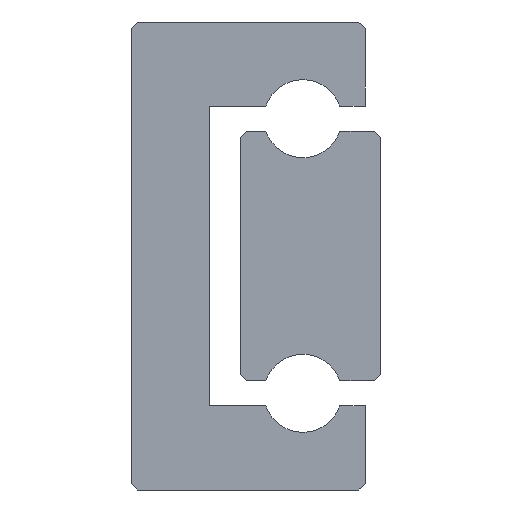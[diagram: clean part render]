
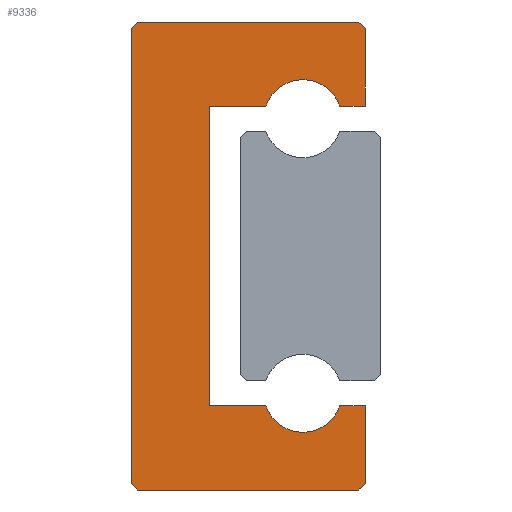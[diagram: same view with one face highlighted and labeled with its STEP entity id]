
A CAD part, left-side view. The second image highlights one B-rep face of the part: STEP entity #9336.
In plain terms, the highlighted planar face has unit normal (-1, 0, 0).
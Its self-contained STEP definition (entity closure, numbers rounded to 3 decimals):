
#73=PLANE('',#10176);
#279=LINE('',#14250,#1085);
#417=LINE('',#15023,#1223);
#420=LINE('',#15029,#1226);
#423=LINE('',#15035,#1229);
#427=LINE('',#15047,#1233);
#430=LINE('',#15069,#1236);
#433=LINE('',#15075,#1239);
#437=LINE('',#15087,#1243);
#440=LINE('',#15093,#1246);
#443=LINE('',#15099,#1249);
#446=LINE('',#15105,#1252);
#449=LINE('',#15111,#1255);
#452=LINE('',#15133,#1258);
#455=LINE('',#15139,#1261);
#1085=VECTOR('',#11133,1000.);
#1223=VECTOR('',#11769,1000.);
#1226=VECTOR('',#11774,1000.);
#1229=VECTOR('',#11779,1000.);
#1233=VECTOR('',#11791,1000.);
#1236=VECTOR('',#11812,1000.);
#1239=VECTOR('',#11817,1000.);
#1243=VECTOR('',#11829,1000.);
#1246=VECTOR('',#11834,1000.);
#1249=VECTOR('',#11839,1000.);
#1252=VECTOR('',#11844,1000.);
#1255=VECTOR('',#11849,1000.);
#1258=VECTOR('',#11870,1000.);
#1261=VECTOR('',#11875,1000.);
#2441=ORIENTED_EDGE('',*,*,#4787,.F.);
#2442=ORIENTED_EDGE('',*,*,#5231,.F.);
#2443=ORIENTED_EDGE('',*,*,#5228,.F.);
#2444=ORIENTED_EDGE('',*,*,#5217,.F.);
#2445=ORIENTED_EDGE('',*,*,#5214,.F.);
#2446=ORIENTED_EDGE('',*,*,#5211,.F.);
#2447=ORIENTED_EDGE('',*,*,#5208,.F.);
#2448=ORIENTED_EDGE('',*,*,#5205,.F.);
#2449=ORIENTED_EDGE('',*,*,#5202,.T.);
#2450=ORIENTED_EDGE('',*,*,#5199,.F.);
#2451=ORIENTED_EDGE('',*,*,#5196,.F.);
#2452=ORIENTED_EDGE('',*,*,#5185,.F.);
#2453=ORIENTED_EDGE('',*,*,#5182,.T.);
#2454=ORIENTED_EDGE('',*,*,#5179,.F.);
#2455=ORIENTED_EDGE('',*,*,#5176,.F.);
#2456=ORIENTED_EDGE('',*,*,#5173,.F.);
#4787=EDGE_CURVE('',#6213,#6214,#279,.T.);
#5173=EDGE_CURVE('',#6214,#6599,#417,.T.);
#5176=EDGE_CURVE('',#6599,#6601,#420,.T.);
#5179=EDGE_CURVE('',#6601,#6603,#423,.T.);
#5182=EDGE_CURVE('',#6605,#6603,#7413,.T.);
#5185=EDGE_CURVE('',#6605,#6607,#427,.T.);
#5196=EDGE_CURVE('',#6607,#6617,#430,.T.);
#5199=EDGE_CURVE('',#6617,#6619,#433,.T.);
#5202=EDGE_CURVE('',#6621,#6619,#7423,.T.);
#5205=EDGE_CURVE('',#6621,#6623,#437,.T.);
#5208=EDGE_CURVE('',#6623,#6625,#440,.T.);
#5211=EDGE_CURVE('',#6625,#6627,#443,.T.);
#5214=EDGE_CURVE('',#6627,#6629,#446,.T.);
#5217=EDGE_CURVE('',#6629,#6631,#449,.T.);
#5228=EDGE_CURVE('',#6631,#6641,#452,.T.);
#5231=EDGE_CURVE('',#6641,#6213,#455,.T.);
#6213=VERTEX_POINT('',#14251);
#6214=VERTEX_POINT('',#14252);
#6599=VERTEX_POINT('',#15024);
#6601=VERTEX_POINT('',#15030);
#6603=VERTEX_POINT('',#15036);
#6605=VERTEX_POINT('',#15042);
#6607=VERTEX_POINT('',#15048);
#6617=VERTEX_POINT('',#15070);
#6619=VERTEX_POINT('',#15076);
#6621=VERTEX_POINT('',#15082);
#6623=VERTEX_POINT('',#15088);
#6625=VERTEX_POINT('',#15094);
#6627=VERTEX_POINT('',#15100);
#6629=VERTEX_POINT('',#15106);
#6631=VERTEX_POINT('',#15112);
#6641=VERTEX_POINT('',#15134);
#7413=CIRCLE('',#10144,1.25);
#7423=CIRCLE('',#10158,1.25);
#7877=EDGE_LOOP('',(#2441,#2442,#2443,#2444,#2445,#2446,#2447,#2448,#2449,
#2450,#2451,#2452,#2453,#2454,#2455,#2456));
#8481=FACE_BOUND('',#7877,.T.);
#9336=ADVANCED_FACE('',(#8481),#73,.F.);
#10144=AXIS2_PLACEMENT_3D('',#15041,#11784,#11785);
#10158=AXIS2_PLACEMENT_3D('',#15081,#11822,#11823);
#10176=AXIS2_PLACEMENT_3D('',#15142,#11879,#11880);
#11133=DIRECTION('',(0.,-1.,0.));
#11769=DIRECTION('',(0.,-0.707,-0.707));
#11774=DIRECTION('',(0.,0.,-1.));
#11779=DIRECTION('',(0.,1.,0.));
#11784=DIRECTION('',(1.,0.,0.));
#11785=DIRECTION('',(0.,0.,-1.));
#11791=DIRECTION('',(0.,1.,0.));
#11812=DIRECTION('',(0.,0.,-1.));
#11817=DIRECTION('',(0.,-1.,0.));
#11822=DIRECTION('',(1.,0.,0.));
#11823=DIRECTION('',(0.,0.,-1.));
#11829=DIRECTION('',(0.,-1.,0.));
#11834=DIRECTION('',(0.,0.,-1.));
#11839=DIRECTION('',(0.,0.707,-0.707));
#11844=DIRECTION('',(0.,1.,0.));
#11849=DIRECTION('',(0.,0.707,0.707));
#11870=DIRECTION('',(0.,0.,1.));
#11875=DIRECTION('',(0.,-0.707,0.707));
#11879=DIRECTION('',(1.,0.,0.));
#11880=DIRECTION('',(0.,0.,-1.));
#14250=CARTESIAN_POINT('',(-35.,7.3,7.5));
#14251=CARTESIAN_POINT('',(-35.,7.3,7.5));
#14252=CARTESIAN_POINT('',(-35.,0.2,7.5));
#15023=CARTESIAN_POINT('',(-35.,0.2,7.5));
#15024=CARTESIAN_POINT('',(-35.,0.,7.3));
#15029=CARTESIAN_POINT('',(-35.,0.,7.3));
#15030=CARTESIAN_POINT('',(-35.,0.,4.8));
#15035=CARTESIAN_POINT('',(-35.,0.,4.8));
#15036=CARTESIAN_POINT('',(-35.,0.816,4.8));
#15041=CARTESIAN_POINT('',(-35.,2.,4.4));
#15042=CARTESIAN_POINT('',(-35.,3.184,4.8));
#15047=CARTESIAN_POINT('',(-35.,3.184,4.8));
#15048=CARTESIAN_POINT('',(-35.,5.,4.8));
#15069=CARTESIAN_POINT('',(-35.,5.,4.8));
#15070=CARTESIAN_POINT('',(-35.,5.,-4.8));
#15075=CARTESIAN_POINT('',(-35.,5.,-4.8));
#15076=CARTESIAN_POINT('',(-35.,3.184,-4.8));
#15081=CARTESIAN_POINT('',(-35.,2.,-4.4));
#15082=CARTESIAN_POINT('',(-35.,0.816,-4.8));
#15087=CARTESIAN_POINT('',(-35.,0.816,-4.8));
#15088=CARTESIAN_POINT('',(-35.,0.,-4.8));
#15093=CARTESIAN_POINT('',(-35.,0.,-4.8));
#15094=CARTESIAN_POINT('',(-35.,0.,-7.3));
#15099=CARTESIAN_POINT('',(-35.,0.,-7.3));
#15100=CARTESIAN_POINT('',(-35.,0.2,-7.5));
#15105=CARTESIAN_POINT('',(-35.,0.2,-7.5));
#15106=CARTESIAN_POINT('',(-35.,7.3,-7.5));
#15111=CARTESIAN_POINT('',(-35.,7.3,-7.5));
#15112=CARTESIAN_POINT('',(-35.,7.5,-7.3));
#15133=CARTESIAN_POINT('',(-35.,7.5,-7.3));
#15134=CARTESIAN_POINT('',(-35.,7.5,7.3));
#15139=CARTESIAN_POINT('',(-35.,7.5,7.3));
#15142=CARTESIAN_POINT('',(-35.,2.,4.4));
